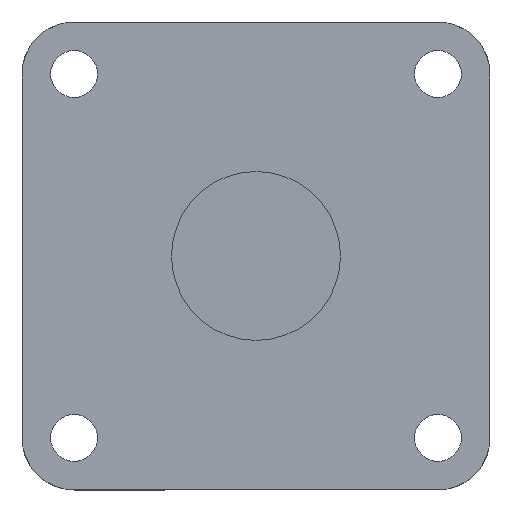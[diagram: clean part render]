
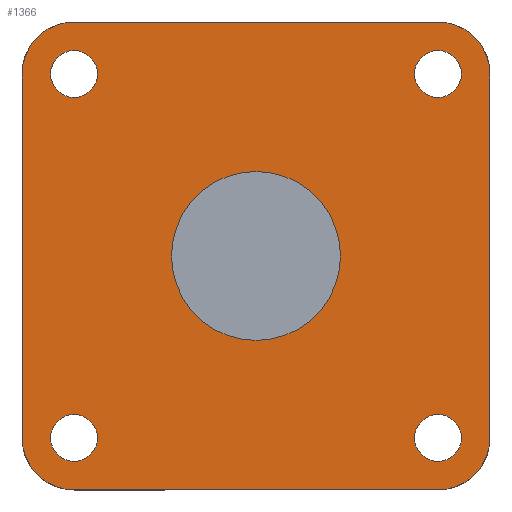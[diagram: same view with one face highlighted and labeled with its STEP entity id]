
A CAD part, top view. The second image highlights one B-rep face of the part: STEP entity #1366.
In plain terms, the highlighted planar face has unit normal (0, 0, 1) as drawn and (0, 0, -1) by its records, which use the part's own axes.
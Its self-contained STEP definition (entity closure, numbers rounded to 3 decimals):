
#143=CARTESIAN_POINT('',(100.,-67.5,-5.0));
#144=VERTEX_POINT('',#143);
#160=CARTESIAN_POINT('',(35.,-67.5,-5.0));
#161=VERTEX_POINT('',#160);
#168=CARTESIAN_POINT('',(67.5,-67.5,-5.0));
#169=DIRECTION('',(0.0,0.0,1.0));
#170=DIRECTION('',(1.0,0.0,0.0));
#171=AXIS2_PLACEMENT_3D('',#168,#169,#170);
#172=CIRCLE('',#171,32.5);
#173=EDGE_CURVE('',#144,#161,#172,.T.);
#183=CARTESIAN_POINT('',(146.5,2.5,-5.0));
#184=VERTEX_POINT('',#183);
#193=CARTESIAN_POINT('',(128.5,2.5,-5.0));
#194=VERTEX_POINT('',#193);
#195=CARTESIAN_POINT('',(137.5,2.5,-5.0));
#196=DIRECTION('',(0.0,0.0,1.0));
#197=DIRECTION('',(1.0,0.0,0.0));
#198=AXIS2_PLACEMENT_3D('',#195,#196,#197);
#199=CIRCLE('',#198,9.0);
#200=EDGE_CURVE('',#194,#184,#199,.T.);
#225=CARTESIAN_POINT('',(146.5,-137.5,-5.0));
#226=VERTEX_POINT('',#225);
#235=CARTESIAN_POINT('',(128.5,-137.5,-5.0));
#236=VERTEX_POINT('',#235);
#237=CARTESIAN_POINT('',(137.5,-137.5,-5.0));
#238=DIRECTION('',(0.0,0.0,1.0));
#239=DIRECTION('',(1.0,0.0,0.0));
#240=AXIS2_PLACEMENT_3D('',#237,#238,#239);
#241=CIRCLE('',#240,9.0);
#242=EDGE_CURVE('',#236,#226,#241,.T.);
#267=CARTESIAN_POINT('',(6.5,-137.5,-5.0));
#268=VERTEX_POINT('',#267);
#277=CARTESIAN_POINT('',(-11.5,-137.5,-5.0));
#278=VERTEX_POINT('',#277);
#279=CARTESIAN_POINT('',(-2.5,-137.5,-5.0));
#280=DIRECTION('',(0.0,0.0,1.0));
#281=DIRECTION('',(1.0,0.0,0.0));
#282=AXIS2_PLACEMENT_3D('',#279,#280,#281);
#283=CIRCLE('',#282,9.0);
#284=EDGE_CURVE('',#278,#268,#283,.T.);
#309=CARTESIAN_POINT('',(6.5,2.5,-5.0));
#310=VERTEX_POINT('',#309);
#319=CARTESIAN_POINT('',(-11.5,2.5,-5.0));
#320=VERTEX_POINT('',#319);
#321=CARTESIAN_POINT('',(-2.5,2.5,-5.0));
#322=DIRECTION('',(0.0,0.0,1.0));
#323=DIRECTION('',(1.0,0.0,0.0));
#324=AXIS2_PLACEMENT_3D('',#321,#322,#323);
#325=CIRCLE('',#324,9.0);
#326=EDGE_CURVE('',#320,#310,#325,.T.);
#1215=CARTESIAN_POINT('',(-22.5,2.5,-5.0));
#1216=VERTEX_POINT('',#1215);
#1225=CARTESIAN_POINT('',(-22.5,-137.5,-5.0));
#1226=VERTEX_POINT('',#1225);
#1227=CARTESIAN_POINT('',(-22.5,2.5,-5.0));
#1228=DIRECTION('',(0.0,-1.0,0.0));
#1229=VECTOR('',#1228,140.);
#1230=LINE('',#1227,#1229);
#1231=EDGE_CURVE('',#1216,#1226,#1230,.T.);
#1250=CARTESIAN_POINT('',(0.,0.,-5.0));
#1251=DIRECTION('',(0.0,0.0,1.0));
#1252=DIRECTION('',(1.0,0.0,0.0));
#1253=AXIS2_PLACEMENT_3D('',#1250,#1251,#1252);
#1254=PLANE('',#1253);
#1255=CARTESIAN_POINT('',(-2.5,22.5,-5.0));
#1256=VERTEX_POINT('',#1255);
#1257=CARTESIAN_POINT('',(-2.5,2.5,-5.0));
#1258=DIRECTION('',(0.0,0.0,1.));
#1259=DIRECTION('',(-0.707,0.707,0.0));
#1260=AXIS2_PLACEMENT_3D('',#1257,#1258,#1259);
#1261=CIRCLE('',#1260,20.);
#1262=EDGE_CURVE('',#1256,#1216,#1261,.T.);
#1263=ORIENTED_EDGE('',*,*,#1262,.F.);
#1264=CARTESIAN_POINT('',(137.5,22.5,-5.0));
#1265=VERTEX_POINT('',#1264);
#1266=CARTESIAN_POINT('',(137.5,22.5,-5.0));
#1267=DIRECTION('',(-1.0,0.0,0.0));
#1268=VECTOR('',#1267,140.0);
#1269=LINE('',#1266,#1268);
#1270=EDGE_CURVE('',#1265,#1256,#1269,.T.);
#1271=ORIENTED_EDGE('',*,*,#1270,.F.);
#1272=CARTESIAN_POINT('',(157.5,2.5,-5.0));
#1273=VERTEX_POINT('',#1272);
#1274=CARTESIAN_POINT('',(137.5,2.5,-5.0));
#1275=DIRECTION('',(0.0,0.0,1.0));
#1276=DIRECTION('',(0.707,0.707,0.0));
#1277=AXIS2_PLACEMENT_3D('',#1274,#1275,#1276);
#1278=CIRCLE('',#1277,20.0);
#1279=EDGE_CURVE('',#1273,#1265,#1278,.T.);
#1280=ORIENTED_EDGE('',*,*,#1279,.F.);
#1281=CARTESIAN_POINT('',(157.5,-137.5,-5.0));
#1282=VERTEX_POINT('',#1281);
#1283=CARTESIAN_POINT('',(157.5,-137.5,-5.0));
#1284=DIRECTION('',(0.0,1.0,0.0));
#1285=VECTOR('',#1284,140.0);
#1286=LINE('',#1283,#1285);
#1287=EDGE_CURVE('',#1282,#1273,#1286,.T.);
#1288=ORIENTED_EDGE('',*,*,#1287,.F.);
#1289=CARTESIAN_POINT('',(137.5,-157.5,-5.0));
#1290=VERTEX_POINT('',#1289);
#1291=CARTESIAN_POINT('',(137.5,-137.5,-5.0));
#1292=DIRECTION('',(0.0,0.0,1.));
#1293=DIRECTION('',(0.707,-0.707,0.0));
#1294=AXIS2_PLACEMENT_3D('',#1291,#1292,#1293);
#1295=CIRCLE('',#1294,20.);
#1296=EDGE_CURVE('',#1290,#1282,#1295,.T.);
#1297=ORIENTED_EDGE('',*,*,#1296,.F.);
#1298=CARTESIAN_POINT('',(-2.5,-157.5,-5.0));
#1299=VERTEX_POINT('',#1298);
#1300=CARTESIAN_POINT('',(-2.5,-157.5,-5.0));
#1301=DIRECTION('',(1.0,0.0,0.0));
#1302=VECTOR('',#1301,140.);
#1303=LINE('',#1300,#1302);
#1304=EDGE_CURVE('',#1299,#1290,#1303,.T.);
#1305=ORIENTED_EDGE('',*,*,#1304,.F.);
#1306=CARTESIAN_POINT('',(-2.5,-137.5,-5.0));
#1307=DIRECTION('',(0.0,0.0,1.0));
#1308=DIRECTION('',(-0.707,-0.707,0.0));
#1309=AXIS2_PLACEMENT_3D('',#1306,#1307,#1308);
#1310=CIRCLE('',#1309,20.0);
#1311=EDGE_CURVE('',#1226,#1299,#1310,.T.);
#1312=ORIENTED_EDGE('',*,*,#1311,.F.);
#1313=ORIENTED_EDGE('',*,*,#1231,.F.);
#1314=EDGE_LOOP('',(#1263,#1271,#1280,#1288,#1297,#1305,#1312,#1313));
#1315=FACE_OUTER_BOUND('',#1314,.T.);
#1316=ORIENTED_EDGE('',*,*,#326,.T.);
#1317=CARTESIAN_POINT('',(-2.5,2.5,-5.0));
#1318=DIRECTION('',(0.0,0.0,1.0));
#1319=DIRECTION('',(1.0,0.0,0.0));
#1320=AXIS2_PLACEMENT_3D('',#1317,#1318,#1319);
#1321=CIRCLE('',#1320,9.0);
#1322=EDGE_CURVE('',#310,#320,#1321,.T.);
#1323=ORIENTED_EDGE('',*,*,#1322,.T.);
#1324=EDGE_LOOP('',(#1316,#1323));
#1325=FACE_BOUND('',#1324,.T.);
#1326=ORIENTED_EDGE('',*,*,#284,.T.);
#1327=CARTESIAN_POINT('',(-2.5,-137.5,-5.0));
#1328=DIRECTION('',(0.0,0.0,1.0));
#1329=DIRECTION('',(1.0,0.0,0.0));
#1330=AXIS2_PLACEMENT_3D('',#1327,#1328,#1329);
#1331=CIRCLE('',#1330,9.0);
#1332=EDGE_CURVE('',#268,#278,#1331,.T.);
#1333=ORIENTED_EDGE('',*,*,#1332,.T.);
#1334=EDGE_LOOP('',(#1326,#1333));
#1335=FACE_BOUND('',#1334,.T.);
#1336=ORIENTED_EDGE('',*,*,#242,.T.);
#1337=CARTESIAN_POINT('',(137.5,-137.5,-5.0));
#1338=DIRECTION('',(0.0,0.0,1.0));
#1339=DIRECTION('',(1.0,0.0,0.0));
#1340=AXIS2_PLACEMENT_3D('',#1337,#1338,#1339);
#1341=CIRCLE('',#1340,9.0);
#1342=EDGE_CURVE('',#226,#236,#1341,.T.);
#1343=ORIENTED_EDGE('',*,*,#1342,.T.);
#1344=EDGE_LOOP('',(#1336,#1343));
#1345=FACE_BOUND('',#1344,.T.);
#1346=ORIENTED_EDGE('',*,*,#200,.T.);
#1347=CARTESIAN_POINT('',(137.5,2.5,-5.0));
#1348=DIRECTION('',(0.0,0.0,1.0));
#1349=DIRECTION('',(1.0,0.0,0.0));
#1350=AXIS2_PLACEMENT_3D('',#1347,#1348,#1349);
#1351=CIRCLE('',#1350,9.0);
#1352=EDGE_CURVE('',#184,#194,#1351,.T.);
#1353=ORIENTED_EDGE('',*,*,#1352,.T.);
#1354=EDGE_LOOP('',(#1346,#1353));
#1355=FACE_BOUND('',#1354,.T.);
#1356=ORIENTED_EDGE('',*,*,#173,.T.);
#1357=CARTESIAN_POINT('',(67.5,-67.5,-5.0));
#1358=DIRECTION('',(0.0,0.0,1.0));
#1359=DIRECTION('',(1.0,0.0,0.0));
#1360=AXIS2_PLACEMENT_3D('',#1357,#1358,#1359);
#1361=CIRCLE('',#1360,32.5);
#1362=EDGE_CURVE('',#161,#144,#1361,.T.);
#1363=ORIENTED_EDGE('',*,*,#1362,.T.);
#1364=EDGE_LOOP('',(#1356,#1363));
#1365=FACE_BOUND('',#1364,.T.);
#1366=ADVANCED_FACE('',(#1315,#1325,#1335,#1345,#1355,#1365),#1254,.F.);
